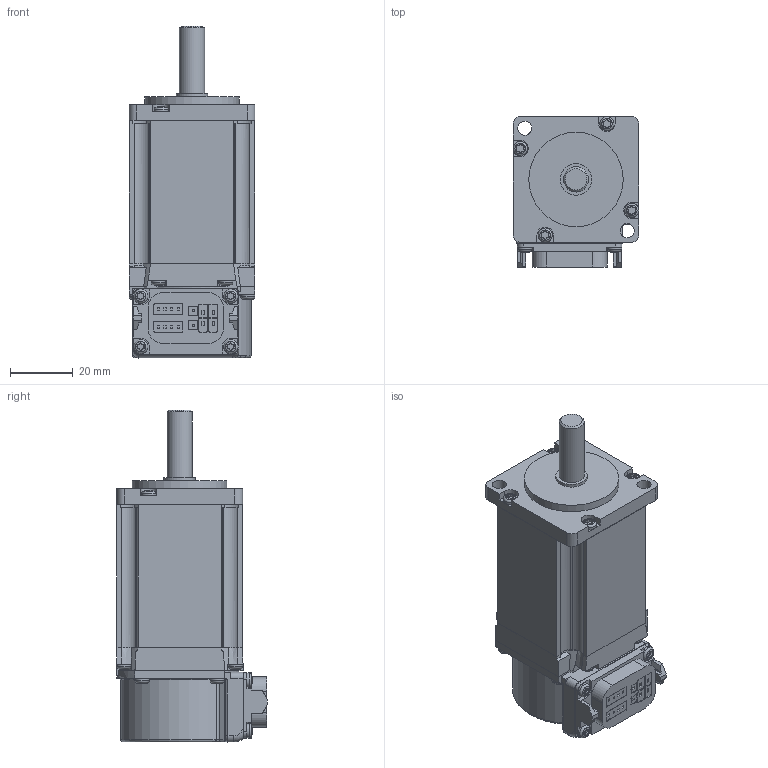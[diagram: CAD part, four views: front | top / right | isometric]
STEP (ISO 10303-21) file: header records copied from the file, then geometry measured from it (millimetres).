
FILE_DESCRIPTION(('STEP AP214'), '1');
FILE_NAME('ñåðâîäâèãóí', '2022-06-02T13:22:20', (' '), (''), 'ASCON STEP Converter 1.3', 'ASCON Math Kernel', '');
FILE_SCHEMA(('AUTOMOTIVE_DESIGN { 1 0 10303 214 3 1 1}'));
Length unit declared in the file: millimetre
Bounding box: 40 x 47.85 x 105.5 mm (x, y, z)
Volume: 117164.1 mm3; surface area: 18363.6 mm2
Topology: 1 solids, 1 shells, 684 faces, 1846 edges, 1202 vertices
Faces by surface type: cylinder 315, plane 306, torus 26, sphere 24, bspline 12, cone 1
Full cylindrical faces by diameter (mm): 4.5 x18, 8 x1, 10 x1, 30 x1
Entity records: 31650 total; most frequent: CARTESIAN_POINT 9283, ORIENTED_EDGE 3600, DIRECTION 3357, EDGE_CURVE 1800, VERTEX_POINT 1202, AXIS2_PLACEMENT_3D 1179, LINE 999, VECTOR 999
